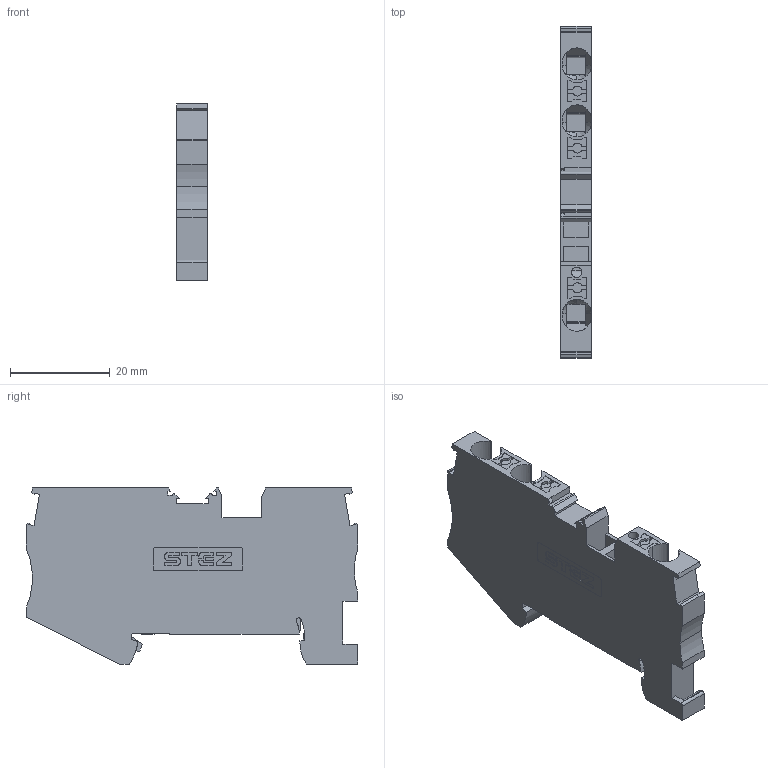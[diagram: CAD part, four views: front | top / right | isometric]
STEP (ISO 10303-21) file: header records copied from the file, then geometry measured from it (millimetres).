
FILE_DESCRIPTION(('TFLEX Exchange Step'),'2;1');
FILE_NAME('14000092_КНБ_4-3-PE.stp', '2025-06-24T10:57:52+03:00',('MVarava'),('Unknown organisation'),'TFLEX Exchange 2023.0','T-FLEX CAD','Unknown authorisation');
FILE_SCHEMA( ('AUTOMOTIVE_DESIGN { 1 0 10303 214 1 1 1 1 }') );
Length unit declared in the file: millimetre
Products named in the file (1): Nodes
Bounding box: 6.15 x 66.4 x 35.25 mm (x, y, z)
Volume: 10213 mm3; surface area: 6592.4 mm2
Topology: 1 solids, 1 shells, 478 faces, 1397 edges, 932 vertices
Faces by surface type: plane 265, cylinder 207, cone 6
Full cylindrical faces by diameter (mm): 2.1 x1
Entity records: 17078 total; most frequent: CARTESIAN_POINT 4143, ORIENTED_EDGE 2794, DIRECTION 2580, EDGE_CURVE 1397, VERTEX_POINT 932, AXIS2_PLACEMENT_3D 876, VECTOR 828, LINE 828
